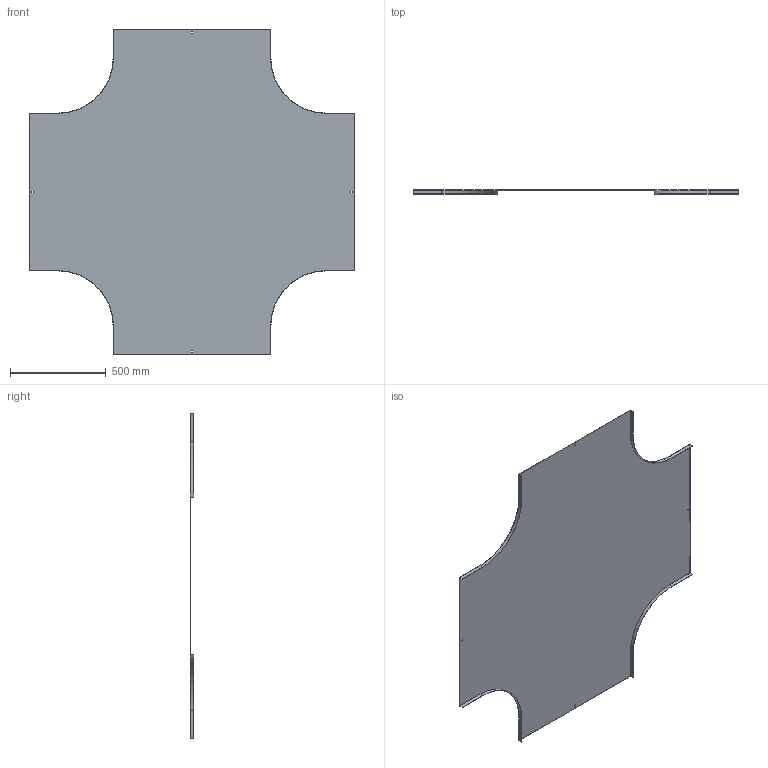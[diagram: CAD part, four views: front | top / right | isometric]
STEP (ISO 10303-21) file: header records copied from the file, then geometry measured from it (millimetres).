
FILE_DESCRIPTION (( 'STEP AP214' ), '1' );
FILE_NAME ('17N3P800.step', '2025-02-21T13:57:18', ( '' ), ( '' ), 'SwSTEP 2.0', 'SolidWorks 2023', '' );
FILE_SCHEMA (( 'AUTOMOTIVE_DESIGN' ));
Length unit declared in the file: millimetre
Products named in the file (1): 17N3P800
Bounding box: 1700 x 20 x 1700 mm (x, y, z)
Volume: 3371859.4 mm3; surface area: 4505677.6 mm2
Topology: 1 solids, 1 shells, 50 faces, 144 edges, 96 vertices
Faces by surface type: plane 42, cylinder 8
Entity records: 1663 total; most frequent: CARTESIAN_POINT 291, ORIENTED_EDGE 288, DIRECTION 262, EDGE_CURVE 144, VECTOR 128, LINE 128, VERTEX_POINT 96, AXIS2_PLACEMENT_3D 67
